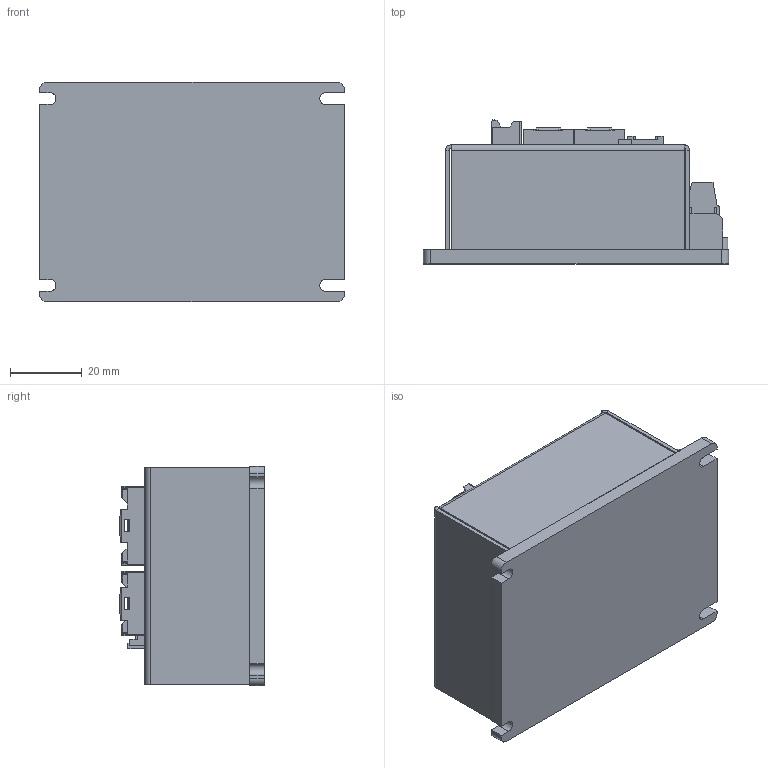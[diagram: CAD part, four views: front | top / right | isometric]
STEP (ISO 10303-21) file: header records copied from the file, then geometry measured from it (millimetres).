
FILE_DESCRIPTION((''),'2;1');
FILE_NAME('000_ASM','2019-10-28T09:49:41',('RD0060'),(''),'CREO PARAMETRIC BY PTC INC, 2016390','CREO PARAMETRIC BY PTC INC, 2016390','');
FILE_SCHEMA(('CONFIG_CONTROL_DESIGN'));
Length unit declared in the file: millimetre
Products named in the file (32): PCBA; DINKLE_EK508V-XXP_1_1; DINKLE_EK508V-XXP_1_2; DINKLE_EK508V-XXP_1_3; DINKLE_EK508V-XXP_1_4; DINKLE_EK508V-XXP_1_5; DINKLE_EK508V-XXP_1_6; DINKLE_EK508V-XXP_1_7; DINKLE_EK508V-XXP_1_8; DINKLE_EK508V-XXP_1_9; DINKLE_EK508V-XXP_1_ASM; DINKLE_EK508V-08P_ASM; APCB_ASM; PCBB; BPCB_ASM; PCBC; 5016451620; 5016452020; CJTA2008WV-4P; BOMA; 559320530; CPCB_ASM; PCB_ASM; HT; HS; TR; MOU3X8; MOU3X4; OD124SHS2; OD124SHS3; HS_ASM; 000_ASM
Assembly tree (42 placements, depth 6):
  000_ASM
    PCB_ASM
      APCB_ASM
        PCBA
        DINKLE_EK508V-08P_ASM
          DINKLE_EK508V-XXP_1_ASM
            DINKLE_EK508V-XXP_1_1
            DINKLE_EK508V-XXP_1_2
            DINKLE_EK508V-XXP_1_3
            DINKLE_EK508V-XXP_1_4
            DINKLE_EK508V-XXP_1_5
            DINKLE_EK508V-XXP_1_6
            DINKLE_EK508V-XXP_1_7
            DINKLE_EK508V-XXP_1_8
            DINKLE_EK508V-XXP_1_9
      BPCB_ASM
        PCBB
      CPCB_ASM
        PCBC
        5016451620
        5016452020
        CJTA2008WV-4P
        BOMA
        559320530  x2
    HT
    HS
    TR
    MOU3X8  x8
    MOU3X4  x4
    HS_ASM
      OD124SHS2
      OD124SHS3
Bounding box: 85 x 40.2 x 61 mm (x, y, z)
Volume: 78543.5 mm3; surface area: 79209.9 mm2
Topology: 41 solids, 41 shells, 2262 faces, 5411 edges, 3426 vertices
Faces by surface type: plane 1759, cylinder 409, cone 38, torus 32, sphere 16, bspline 8
Entity records: 56366 total; most frequent: CARTESIAN_POINT 10138, DIRECTION 9451, ORIENTED_EDGE 9218, EDGE_CURVE 4609, VECTOR 3713, LINE 3713, VERTEX_POINT 2915, AXIS2_PLACEMENT_3D 2869
